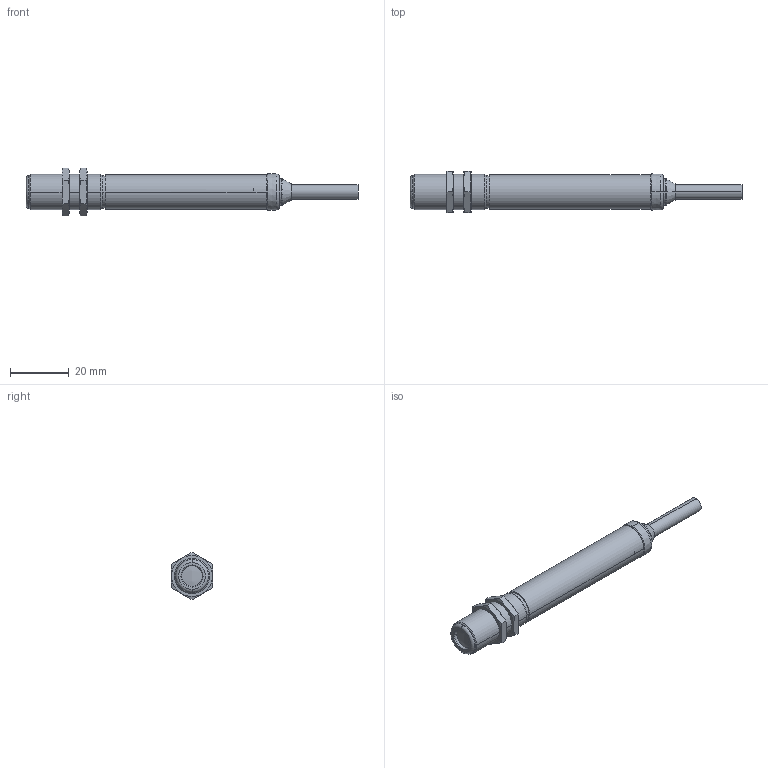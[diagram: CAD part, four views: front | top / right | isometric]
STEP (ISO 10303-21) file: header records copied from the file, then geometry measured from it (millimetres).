
FILE_DESCRIPTION((''),'2;1');
FILE_NAME('0000801661','2025-03-06T09:11:09',('11000913'),(''),'CREO PARAMETRIC BY PTC INC, 2022281','CREO PARAMETRIC BY PTC INC, 2022281','');
FILE_SCHEMA(('AUTOMOTIVE_DESIGN { 1 0 10303 214 1 1 1 1 }'));
Products named in the file (1): 0000801661
Bounding box: 113.15 x 14 x 16.17 mm (x, y, z)
Volume: 10475.9 mm3; surface area: 4195.8 mm2
Topology: 1 solids, 1 shells, 88 faces, 210 edges, 134 vertices
Faces by surface type: cone 34, plane 23, cylinder 16, torus 14, sphere 1
Entity records: 74358 total; most frequent: CARTESIAN_POINT 50675, POLYLINE 19152, DIRECTION 546, ORIENTED_EDGE 420, PRESENTATION_STYLE_ASSIGNMENT 310, AXIS2_PLACEMENT_3D 232, CURVE_STYLE 221, STYLED_ITEM 216
